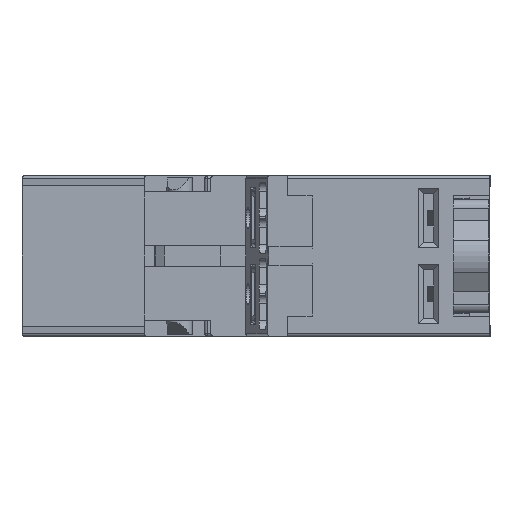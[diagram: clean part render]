
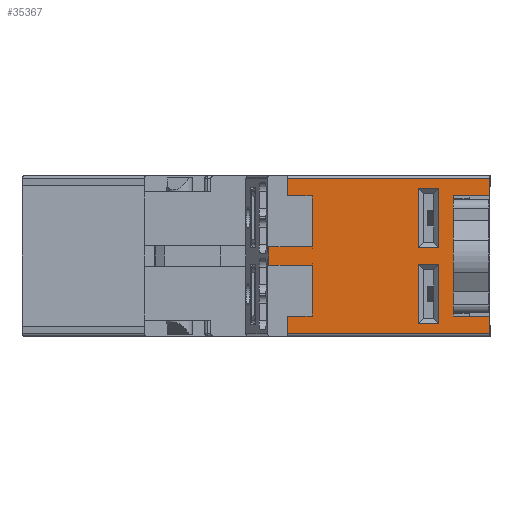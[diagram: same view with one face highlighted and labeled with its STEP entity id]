
A CAD part, left-side view. The second image highlights one B-rep face of the part: STEP entity #35367.
In plain terms, the highlighted planar face has unit normal (-1, 0, 0).
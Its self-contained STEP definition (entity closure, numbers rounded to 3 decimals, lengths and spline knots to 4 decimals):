
#332=FACE_BOUND('',#3519,.T.);
#333=FACE_BOUND('',#3520,.T.);
#1631=FACE_OUTER_BOUND('',#3518,.T.);
#3518=EDGE_LOOP('',(#26383,#26384,#26385,#26386,#26387,#26388,#26389,#26390,
#26391,#26392,#26393,#26394,#26395,#26396,#26397,#26398,#26399,#26400,#26401,
#26402));
#3519=EDGE_LOOP('',(#26403,#26404,#26405,#26406));
#3520=EDGE_LOOP('',(#26407,#26408,#26409,#26410));
#4690=LINE('',#48523,#8773);
#4695=LINE('',#48534,#8778);
#4788=LINE('',#48735,#8871);
#4793=LINE('',#48744,#8876);
#4794=LINE('',#48746,#8877);
#7009=LINE('',#54430,#11092);
#7014=LINE('',#54441,#11097);
#7015=LINE('',#54445,#11098);
#7016=LINE('',#54448,#11099);
#7017=LINE('',#54452,#11100);
#7018=LINE('',#54453,#11101);
#7019=LINE('',#54455,#11102);
#7020=LINE('',#54456,#11103);
#7021=LINE('',#54458,#11104);
#7022=LINE('',#54460,#11105);
#7023=LINE('',#54462,#11106);
#7024=LINE('',#54464,#11107);
#7025=LINE('',#54466,#11108);
#7026=LINE('',#54468,#11109);
#7027=LINE('',#54469,#11110);
#7028=LINE('',#54472,#11111);
#7029=LINE('',#54474,#11112);
#7030=LINE('',#54476,#11113);
#7031=LINE('',#54477,#11114);
#7032=LINE('',#54480,#11115);
#7033=LINE('',#54482,#11116);
#7034=LINE('',#54484,#11117);
#7035=LINE('',#54485,#11118);
#8773=VECTOR('',#39190,0.205);
#8778=VECTOR('',#39197,0.205);
#8871=VECTOR('',#39390,0.0315);
#8876=VECTOR('',#39397,0.0385);
#8877=VECTOR('',#39400,0.7);
#11092=VECTOR('',#43947,0.17);
#11097=VECTOR('',#43956,0.17);
#11098=VECTOR('',#43961,1.9886);
#11099=VECTOR('',#43964,1.9886);
#11100=VECTOR('',#43969,0.17);
#11101=VECTOR('',#43970,0.36);
#11102=VECTOR('',#43971,0.36);
#11103=VECTOR('',#43972,0.17);
#11104=VECTOR('',#43973,0.24);
#11105=VECTOR('',#43974,0.5);
#11106=VECTOR('',#43975,0.424);
#11107=VECTOR('',#43976,0.18);
#11108=VECTOR('',#43977,0.424);
#11109=VECTOR('',#43978,0.5);
#11110=VECTOR('',#43979,0.24);
#11111=VECTOR('',#43980,0.2);
#11112=VECTOR('',#43981,0.58);
#11113=VECTOR('',#43982,0.2);
#11114=VECTOR('',#43983,0.58);
#11115=VECTOR('',#43984,0.2);
#11116=VECTOR('',#43985,0.58);
#11117=VECTOR('',#43986,0.2);
#11118=VECTOR('',#43987,0.58);
#13530=VERTEX_POINT('',#48503);
#13537=VERTEX_POINT('',#48521);
#13538=VERTEX_POINT('',#48522);
#13543=VERTEX_POINT('',#48532);
#13601=VERTEX_POINT('',#48734);
#13604=VERTEX_POINT('',#48742);
#15450=VERTEX_POINT('',#54427);
#15451=VERTEX_POINT('',#54429);
#15453=VERTEX_POINT('',#54435);
#15455=VERTEX_POINT('',#54439);
#15456=VERTEX_POINT('',#54443);
#15457=VERTEX_POINT('',#54447);
#15458=VERTEX_POINT('',#54451);
#15459=VERTEX_POINT('',#54454);
#15460=VERTEX_POINT('',#54457);
#15461=VERTEX_POINT('',#54459);
#15462=VERTEX_POINT('',#54461);
#15463=VERTEX_POINT('',#54463);
#15464=VERTEX_POINT('',#54465);
#15465=VERTEX_POINT('',#54467);
#15466=VERTEX_POINT('',#54470);
#15467=VERTEX_POINT('',#54471);
#15468=VERTEX_POINT('',#54473);
#15469=VERTEX_POINT('',#54475);
#15470=VERTEX_POINT('',#54478);
#15471=VERTEX_POINT('',#54479);
#15472=VERTEX_POINT('',#54481);
#15473=VERTEX_POINT('',#54483);
#16700=EDGE_CURVE('',#13537,#13538,#4690,.T.);
#16706=EDGE_CURVE('',#13530,#13543,#4695,.T.);
#16809=EDGE_CURVE('',#13601,#13530,#4788,.T.);
#16814=EDGE_CURVE('',#13538,#13604,#4793,.T.);
#16815=EDGE_CURVE('',#13543,#13537,#4794,.T.);
#19446=EDGE_CURVE('',#15451,#15450,#7009,.T.);
#19452=EDGE_CURVE('',#15453,#15455,#7014,.T.);
#19454=EDGE_CURVE('',#15456,#15450,#7015,.T.);
#19455=EDGE_CURVE('',#15453,#15457,#7016,.T.);
#19457=EDGE_CURVE('',#15458,#15456,#7017,.T.);
#19458=EDGE_CURVE('',#15458,#13601,#7018,.T.);
#19459=EDGE_CURVE('',#13604,#15459,#7019,.T.);
#19460=EDGE_CURVE('',#15457,#15459,#7020,.T.);
#19461=EDGE_CURVE('',#15455,#15460,#7021,.T.);
#19462=EDGE_CURVE('',#15460,#15461,#7022,.T.);
#19463=EDGE_CURVE('',#15461,#15462,#7023,.T.);
#19464=EDGE_CURVE('',#15462,#15463,#7024,.T.);
#19465=EDGE_CURVE('',#15463,#15464,#7025,.T.);
#19466=EDGE_CURVE('',#15464,#15465,#7026,.T.);
#19467=EDGE_CURVE('',#15465,#15451,#7027,.T.);
#19468=EDGE_CURVE('',#15466,#15467,#7028,.T.);
#19469=EDGE_CURVE('',#15468,#15466,#7029,.T.);
#19470=EDGE_CURVE('',#15469,#15468,#7030,.T.);
#19471=EDGE_CURVE('',#15467,#15469,#7031,.T.);
#19472=EDGE_CURVE('',#15470,#15471,#7032,.T.);
#19473=EDGE_CURVE('',#15472,#15470,#7033,.T.);
#19474=EDGE_CURVE('',#15473,#15472,#7034,.T.);
#19475=EDGE_CURVE('',#15471,#15473,#7035,.T.);
#26383=ORIENTED_EDGE('',*,*,#19446,.T.);
#26384=ORIENTED_EDGE('',*,*,#19454,.F.);
#26385=ORIENTED_EDGE('',*,*,#19457,.F.);
#26386=ORIENTED_EDGE('',*,*,#19458,.T.);
#26387=ORIENTED_EDGE('',*,*,#16809,.T.);
#26388=ORIENTED_EDGE('',*,*,#16706,.T.);
#26389=ORIENTED_EDGE('',*,*,#16815,.T.);
#26390=ORIENTED_EDGE('',*,*,#16700,.T.);
#26391=ORIENTED_EDGE('',*,*,#16814,.T.);
#26392=ORIENTED_EDGE('',*,*,#19459,.T.);
#26393=ORIENTED_EDGE('',*,*,#19460,.F.);
#26394=ORIENTED_EDGE('',*,*,#19455,.F.);
#26395=ORIENTED_EDGE('',*,*,#19452,.T.);
#26396=ORIENTED_EDGE('',*,*,#19461,.T.);
#26397=ORIENTED_EDGE('',*,*,#19462,.T.);
#26398=ORIENTED_EDGE('',*,*,#19463,.T.);
#26399=ORIENTED_EDGE('',*,*,#19464,.T.);
#26400=ORIENTED_EDGE('',*,*,#19465,.T.);
#26401=ORIENTED_EDGE('',*,*,#19466,.T.);
#26402=ORIENTED_EDGE('',*,*,#19467,.T.);
#26403=ORIENTED_EDGE('',*,*,#19468,.F.);
#26404=ORIENTED_EDGE('',*,*,#19469,.F.);
#26405=ORIENTED_EDGE('',*,*,#19470,.F.);
#26406=ORIENTED_EDGE('',*,*,#19471,.F.);
#26407=ORIENTED_EDGE('',*,*,#19472,.F.);
#26408=ORIENTED_EDGE('',*,*,#19473,.F.);
#26409=ORIENTED_EDGE('',*,*,#19474,.F.);
#26410=ORIENTED_EDGE('',*,*,#19475,.F.);
#31969=PLANE('',#37608);
#35367=ADVANCED_FACE('',(#1631,#332,#333),#31969,.T.);
#37608=AXIS2_PLACEMENT_3D('',#54450,#43967,#43968);
#39190=DIRECTION('',(0.,0.,1.));
#39197=DIRECTION('',(0.,0.,1.));
#39390=DIRECTION('',(0.,0.,1.));
#39397=DIRECTION('',(0.,0.,1.));
#39400=DIRECTION('',(0.,0.,1.));
#43947=DIRECTION('',(0.,0.,-1.));
#43956=DIRECTION('',(0.,0.,-1.));
#43961=DIRECTION('',(0.,1.,0.));
#43964=DIRECTION('',(0.,-1.,0.));
#43967=DIRECTION('center_axis',(-1.,0.,0.));
#43968=DIRECTION('ref_axis',(0.,1.,0.));
#43969=DIRECTION('',(0.,0.,-1.));
#43970=DIRECTION('',(0.,1.,0.));
#43971=DIRECTION('',(0.,-1.,0.));
#43972=DIRECTION('',(0.,0.,-1.));
#43973=DIRECTION('',(0.,-1.,0.));
#43974=DIRECTION('',(0.,0.,-1.));
#43975=DIRECTION('',(0.,1.,0.));
#43976=DIRECTION('',(0.,0.,-1.));
#43977=DIRECTION('',(0.,-1.,0.));
#43978=DIRECTION('',(0.,0.,-1.));
#43979=DIRECTION('',(0.,1.,0.));
#43980=DIRECTION('',(0.,-1.,0.));
#43981=DIRECTION('',(0.,0.,-1.));
#43982=DIRECTION('',(0.,1.,0.));
#43983=DIRECTION('',(0.,0.,1.));
#43984=DIRECTION('',(0.,-1.,0.));
#43985=DIRECTION('',(0.,0.,-1.));
#43986=DIRECTION('',(0.,1.,0.));
#43987=DIRECTION('',(0.,0.,1.));
#48503=CARTESIAN_POINT('',(-0.11,0.36,-0.5585));
#48521=CARTESIAN_POINT('',(-0.11,0.36,0.3465));
#48522=CARTESIAN_POINT('',(-0.11,0.36,0.5515));
#48523=CARTESIAN_POINT('',(-0.11,0.36,0.1));
#48532=CARTESIAN_POINT('',(-0.11,0.36,-0.3535));
#48534=CARTESIAN_POINT('',(-0.11,0.36,0.1));
#48734=CARTESIAN_POINT('',(-0.11,0.36,-0.59));
#48735=CARTESIAN_POINT('',(-0.11,0.36,0.1));
#48742=CARTESIAN_POINT('',(-0.11,0.36,0.59));
#48744=CARTESIAN_POINT('',(-0.11,0.36,0.1));
#48746=CARTESIAN_POINT('',(-0.11,0.36,0.1));
#54427=CARTESIAN_POINT('',(-0.11,1.9886,-0.76));
#54429=CARTESIAN_POINT('',(-0.11,1.9886,-0.59));
#54430=CARTESIAN_POINT('',(-0.11,1.9886,0.1));
#54435=CARTESIAN_POINT('',(-0.11,1.9886,0.76));
#54439=CARTESIAN_POINT('',(-0.11,1.9886,0.59));
#54441=CARTESIAN_POINT('',(-0.11,1.9886,0.79));
#54443=CARTESIAN_POINT('',(-0.11,0.,-0.76));
#54445=CARTESIAN_POINT('',(-0.11,1.1136,-0.76));
#54447=CARTESIAN_POINT('',(-0.11,0.,0.76));
#54448=CARTESIAN_POINT('',(-0.11,1.1136,0.76));
#54450=CARTESIAN_POINT('Origin',(-0.11,0.,0.79));
#54451=CARTESIAN_POINT('',(-0.11,0.,-0.59));
#54452=CARTESIAN_POINT('',(-0.11,0.,0.79));
#54453=CARTESIAN_POINT('',(-0.11,0.,-0.59));
#54454=CARTESIAN_POINT('',(-0.11,0.,0.59));
#54455=CARTESIAN_POINT('',(-0.11,0.18,0.59));
#54456=CARTESIAN_POINT('',(-0.11,0.,0.79));
#54457=CARTESIAN_POINT('',(-0.11,1.7486,0.59));
#54458=CARTESIAN_POINT('',(-0.11,1.0993,0.59));
#54459=CARTESIAN_POINT('',(-0.11,1.7486,0.09));
#54460=CARTESIAN_POINT('',(-0.11,1.7486,0.5558));
#54461=CARTESIAN_POINT('',(-0.11,2.1725,0.09));
#54462=CARTESIAN_POINT('',(-0.11,1.0993,0.09));
#54463=CARTESIAN_POINT('',(-0.11,2.1725,-0.09));
#54464=CARTESIAN_POINT('',(-0.11,2.1725,0.79));
#54465=CARTESIAN_POINT('',(-0.11,1.7486,-0.09));
#54466=CARTESIAN_POINT('',(-0.11,1.0993,-0.09));
#54467=CARTESIAN_POINT('',(-0.11,1.7486,-0.59));
#54468=CARTESIAN_POINT('',(-0.11,1.7486,0.2342));
#54469=CARTESIAN_POINT('',(-0.11,1.0993,-0.59));
#54470=CARTESIAN_POINT('',(-0.11,0.705,0.085));
#54471=CARTESIAN_POINT('',(-0.11,0.505,0.085));
#54472=CARTESIAN_POINT('',(-0.11,0.2775,0.085));
#54473=CARTESIAN_POINT('',(-0.11,0.705,0.665));
#54474=CARTESIAN_POINT('',(-0.11,0.705,0.4625));
#54475=CARTESIAN_POINT('',(-0.11,0.505,0.665));
#54476=CARTESIAN_POINT('',(-0.11,0.3275,0.665));
#54477=CARTESIAN_POINT('',(-0.11,0.505,0.7025));
#54478=CARTESIAN_POINT('',(-0.11,0.705,-0.665));
#54479=CARTESIAN_POINT('',(-0.11,0.505,-0.665));
#54480=CARTESIAN_POINT('',(-0.11,0.2775,-0.665));
#54481=CARTESIAN_POINT('',(-0.11,0.705,-0.085));
#54482=CARTESIAN_POINT('',(-0.11,0.705,0.0875));
#54483=CARTESIAN_POINT('',(-0.11,0.505,-0.085));
#54484=CARTESIAN_POINT('',(-0.11,0.3275,-0.085));
#54485=CARTESIAN_POINT('',(-0.11,0.505,0.3275));
